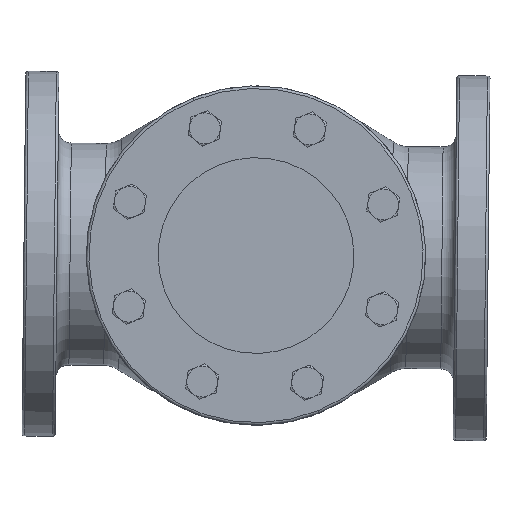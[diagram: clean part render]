
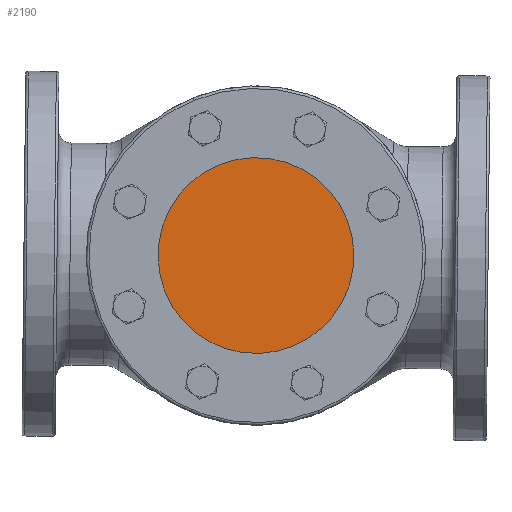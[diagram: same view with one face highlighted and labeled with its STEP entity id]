
A CAD part, top view. The second image highlights one B-rep face of the part: STEP entity #2190.
In plain terms, the highlighted planar face has unit normal (0, 0, 1).
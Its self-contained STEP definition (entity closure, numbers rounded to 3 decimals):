
#222 = VERTEX_POINT('',#223);
#223 = CARTESIAN_POINT('',(54.716,-203.53,
    400.679));
#232 = CYLINDRICAL_SURFACE('',#233,75.);
#233 = AXIS2_PLACEMENT_3D('',#234,#235,#236);
#234 = CARTESIAN_POINT('',(26.739,-133.944,400.679
    ));
#235 = DIRECTION('',(0.,0.,1.));
#236 = DIRECTION('',(0.373,-0.928,0.)
  );
#244 = CYLINDRICAL_SURFACE('',#245,75.);
#245 = AXIS2_PLACEMENT_3D('',#246,#247,#248);
#246 = CARTESIAN_POINT('',(26.739,-133.944,400.679
    ));
#247 = DIRECTION('',(0.,0.,1.));
#248 = DIRECTION('',(0.373,-0.928,0.)
  );
#286 = VERTEX_POINT('',#287);
#287 = CARTESIAN_POINT('',(-1.238,-64.357,
    400.679));
#308 = EDGE_CURVE('',#286,#222,#309,.T.);
#309 = SURFACE_CURVE('',#310,(#315,#322),.PCURVE_S1.);
#310 = CIRCLE('',#311,75.);
#311 = AXIS2_PLACEMENT_3D('',#312,#313,#314);
#312 = CARTESIAN_POINT('',(26.739,-133.944,400.679
    ));
#313 = DIRECTION('',(0.,0.,1.));
#314 = DIRECTION('',(0.373,-0.928,0.)
  );
#315 = PCURVE('',#232,#316);
#316 = DEFINITIONAL_REPRESENTATION('',(#317),#321);
#317 = LINE('',#318,#319);
#318 = CARTESIAN_POINT('',(0.,0.));
#319 = VECTOR('',#320,1.);
#320 = DIRECTION('',(1.,0.));
#321 = ( GEOMETRIC_REPRESENTATION_CONTEXT(2) 
PARAMETRIC_REPRESENTATION_CONTEXT() REPRESENTATION_CONTEXT('2D SPACE',''
  ) );
#322 = PCURVE('',#323,#328);
#323 = PLANE('',#324);
#324 = AXIS2_PLACEMENT_3D('',#325,#326,#327);
#325 = CARTESIAN_POINT('',(26.739,-133.944,400.679
    ));
#326 = DIRECTION('',(0.,0.,1.));
#327 = DIRECTION('',(0.373,-0.928,0.)
  );
#328 = DEFINITIONAL_REPRESENTATION('',(#329),#333);
#329 = CIRCLE('',#330,75.);
#330 = AXIS2_PLACEMENT_2D('',#331,#332);
#331 = CARTESIAN_POINT('',(0.,0.));
#332 = DIRECTION('',(1.,0.));
#333 = ( GEOMETRIC_REPRESENTATION_CONTEXT(2) 
PARAMETRIC_REPRESENTATION_CONTEXT() REPRESENTATION_CONTEXT('2D SPACE',''
  ) );
#2167 = EDGE_CURVE('',#222,#286,#2168,.T.);
#2168 = SURFACE_CURVE('',#2169,(#2174,#2181),.PCURVE_S1.);
#2169 = CIRCLE('',#2170,75.);
#2170 = AXIS2_PLACEMENT_3D('',#2171,#2172,#2173);
#2171 = CARTESIAN_POINT('',(26.739,-133.944,
    400.679));
#2172 = DIRECTION('',(0.,0.,1.));
#2173 = DIRECTION('',(0.373,-0.928,0.)
  );
#2174 = PCURVE('',#244,#2175);
#2175 = DEFINITIONAL_REPRESENTATION('',(#2176),#2180);
#2176 = LINE('',#2177,#2178);
#2177 = CARTESIAN_POINT('',(0.,0.));
#2178 = VECTOR('',#2179,1.);
#2179 = DIRECTION('',(1.,0.));
#2180 = ( GEOMETRIC_REPRESENTATION_CONTEXT(2) 
PARAMETRIC_REPRESENTATION_CONTEXT() REPRESENTATION_CONTEXT('2D SPACE',''
  ) );
#2181 = PCURVE('',#323,#2182);
#2182 = DEFINITIONAL_REPRESENTATION('',(#2183),#2187);
#2183 = CIRCLE('',#2184,75.);
#2184 = AXIS2_PLACEMENT_2D('',#2185,#2186);
#2185 = CARTESIAN_POINT('',(0.,0.));
#2186 = DIRECTION('',(1.,0.));
#2187 = ( GEOMETRIC_REPRESENTATION_CONTEXT(2) 
PARAMETRIC_REPRESENTATION_CONTEXT() REPRESENTATION_CONTEXT('2D SPACE',''
  ) );
#2190 = ADVANCED_FACE('',(#2191),#323,.T.);
#2191 = FACE_BOUND('',#2192,.T.);
#2192 = EDGE_LOOP('',(#2193,#2194));
#2193 = ORIENTED_EDGE('',*,*,#2167,.T.);
#2194 = ORIENTED_EDGE('',*,*,#308,.T.);
